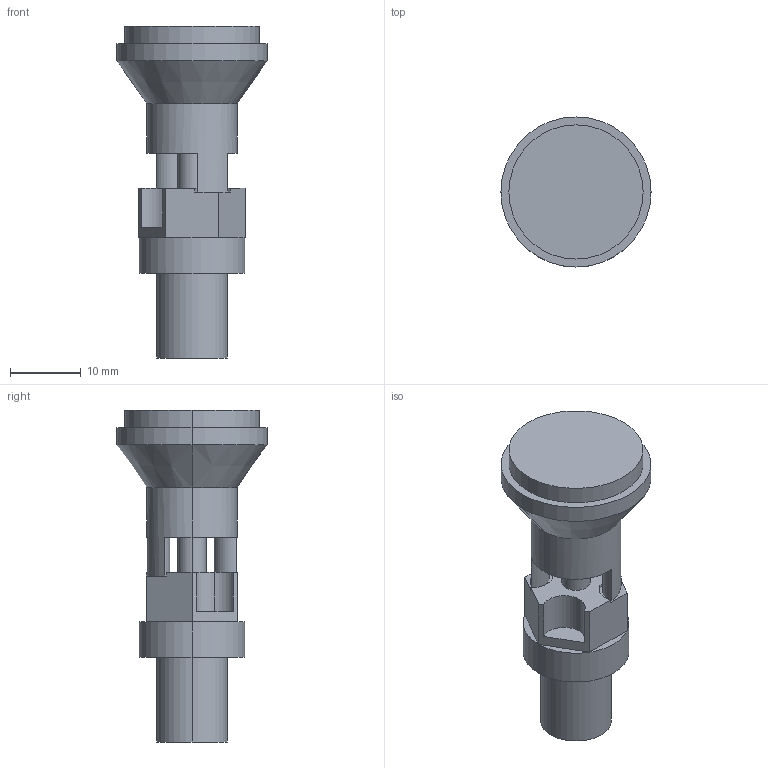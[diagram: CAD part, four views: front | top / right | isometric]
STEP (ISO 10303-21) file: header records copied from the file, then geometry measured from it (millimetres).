
FILE_DESCRIPTION (( 'STEP AP203' ), '1' );
FILE_NAME ('ASUTEC_75009004.STEP', '2017-01-04T10:59:53', ( '' ), ( '' ), 'SwSTEP 2.0', 'SolidWorks 2015', '' );
FILE_SCHEMA (( 'CONFIG_CONTROL_DESIGN' ));
Length unit declared in the file: millimetre
Products named in the file (1): ASUTEC_75009004
Bounding box: 21.25 x 21.25 x 47 mm (x, y, z)
Volume: 6679.3 mm3; surface area: 3387.6 mm2
Topology: 1 solids, 1 shells, 62 faces, 147 edges, 92 vertices
Faces by surface type: plane 31, cylinder 27, cone 4
Entity records: 1884 total; most frequent: DIRECTION 345, CARTESIAN_POINT 302, ORIENTED_EDGE 294, EDGE_CURVE 147, AXIS2_PLACEMENT_3D 135, VERTEX_POINT 92, VECTOR 75, LINE 75
